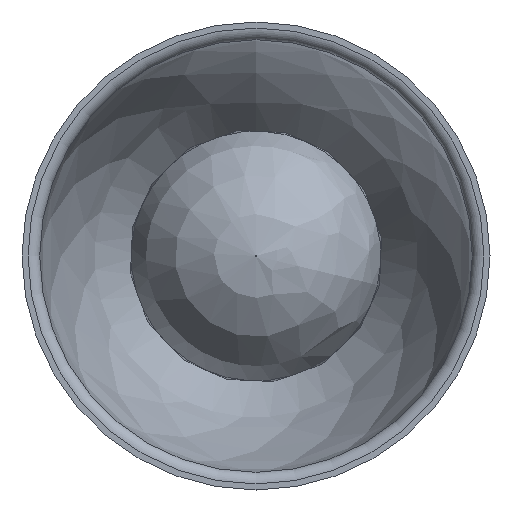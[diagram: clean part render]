
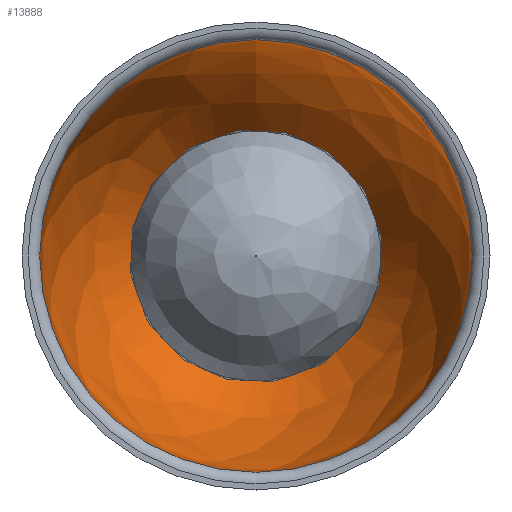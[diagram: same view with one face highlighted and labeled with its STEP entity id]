
A CAD part, front view. The second image highlights one B-rep face of the part: STEP entity #13888.
In plain terms, the highlighted free-form (B-spline) face has degree [2, 2] with [3, 9] control points.
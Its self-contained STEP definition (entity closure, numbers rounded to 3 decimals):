
#2724=(
BOUNDED_SURFACE()
B_SPLINE_SURFACE(2,2,((#23053,#23054,#23055,#23056,#23057,#23058,#23059,
#23060,#23061),(#23062,#23063,#23064,#23065,#23066,#23067,#23068,#23069,
#23070),(#23071,#23072,#23073,#23074,#23075,#23076,#23077,#23078,#23079)),
 .UNSPECIFIED.,.F.,.T.,.F.)
B_SPLINE_SURFACE_WITH_KNOTS((3,3),(3,2,2,2,3),(-0.663,0.054),
(-3.142,-1.571,0.,1.571,3.142),
 .UNSPECIFIED.)
GEOMETRIC_REPRESENTATION_ITEM()
RATIONAL_B_SPLINE_SURFACE(((1.,0.707,1.,0.707,1.,
0.707,1.,0.707,1.),(0.936,0.662,
0.936,0.662,0.936,0.662,
0.936,0.662,0.936),(1.,0.707,
1.,0.707,1.,0.707,1.,0.707,1.)))
REPRESENTATION_ITEM('')
SURFACE()
);
#3100=CIRCLE('',#14916,38.);
#3101=CIRCLE('',#14917,38.);
#3102=CIRCLE('',#14918,159.98);
#3103=CIRCLE('',#14919,71.631);
#3104=CIRCLE('',#14920,71.631);
#4168=FACE_OUTER_BOUND('',#4940,.T.);
#4940=EDGE_LOOP('',(#10223,#10224,#10225,#10226,#10227,#10228));
#7153=VERTEX_POINT('',#23048);
#7154=VERTEX_POINT('',#23050);
#7155=VERTEX_POINT('',#23080);
#7156=VERTEX_POINT('',#23082);
#8307=EDGE_CURVE('',#7153,#7154,#3100,.T.);
#8308=EDGE_CURVE('',#7154,#7153,#3101,.T.);
#8309=EDGE_CURVE('',#7154,#7155,#3102,.T.);
#8310=EDGE_CURVE('',#7155,#7156,#3103,.T.);
#8311=EDGE_CURVE('',#7156,#7155,#3104,.T.);
#10223=ORIENTED_EDGE('',*,*,#8307,.F.);
#10224=ORIENTED_EDGE('',*,*,#8308,.F.);
#10225=ORIENTED_EDGE('',*,*,#8309,.T.);
#10226=ORIENTED_EDGE('',*,*,#8310,.T.);
#10227=ORIENTED_EDGE('',*,*,#8311,.T.);
#10228=ORIENTED_EDGE('',*,*,#8309,.F.);
#13888=ADVANCED_FACE('',(#4168),#2724,.T.);
#14916=AXIS2_PLACEMENT_3D('',#23051,#17163,#17164);
#14917=AXIS2_PLACEMENT_3D('',#23052,#17165,#17166);
#14918=AXIS2_PLACEMENT_3D('',#23081,#17167,#17168);
#14919=AXIS2_PLACEMENT_3D('',#23083,#17169,#17170);
#14920=AXIS2_PLACEMENT_3D('',#23084,#17171,#17172);
#17163=DIRECTION('center_axis',(0.,-1.,0.));
#17164=DIRECTION('ref_axis',(1.,0.,0.));
#17165=DIRECTION('center_axis',(0.,-1.,0.));
#17166=DIRECTION('ref_axis',(1.,0.,0.));
#17167=DIRECTION('center_axis',(1.,0.,0.));
#17168=DIRECTION('ref_axis',(0.,0.,1.));
#17169=DIRECTION('center_axis',(0.,-1.,0.));
#17170=DIRECTION('ref_axis',(1.,0.,0.));
#17171=DIRECTION('center_axis',(0.,-1.,0.));
#17172=DIRECTION('ref_axis',(1.,0.,0.));
#23048=CARTESIAN_POINT('',(-38.,129.314,0.));
#23050=CARTESIAN_POINT('',(0.,129.314,38.));
#23051=CARTESIAN_POINT('Origin',(0.,129.314,0.));
#23052=CARTESIAN_POINT('Origin',(0.,129.314,0.));
#23053=CARTESIAN_POINT('Ctrl Pts',(0.,129.314,38.));
#23054=CARTESIAN_POINT('Ctrl Pts',(-38.,129.314,38.));
#23055=CARTESIAN_POINT('Ctrl Pts',(-38.,129.314,0.));
#23056=CARTESIAN_POINT('Ctrl Pts',(-38.,129.314,-38.));
#23057=CARTESIAN_POINT('Ctrl Pts',(0.,129.314,-38.));
#23058=CARTESIAN_POINT('Ctrl Pts',(38.,129.314,-38.));
#23059=CARTESIAN_POINT('Ctrl Pts',(38.,129.314,0.));
#23060=CARTESIAN_POINT('Ctrl Pts',(38.,129.314,38.));
#23061=CARTESIAN_POINT('Ctrl Pts',(0.,129.314,38.));
#23062=CARTESIAN_POINT('Ctrl Pts',(0.,82.065,74.878));
#23063=CARTESIAN_POINT('Ctrl Pts',(-74.878,82.065,74.878));
#23064=CARTESIAN_POINT('Ctrl Pts',(-74.878,82.065,0.));
#23065=CARTESIAN_POINT('Ctrl Pts',(-74.878,82.065,-74.878));
#23066=CARTESIAN_POINT('Ctrl Pts',(0.,82.065,-74.878));
#23067=CARTESIAN_POINT('Ctrl Pts',(74.878,82.065,-74.878));
#23068=CARTESIAN_POINT('Ctrl Pts',(74.878,82.065,0.));
#23069=CARTESIAN_POINT('Ctrl Pts',(74.878,82.065,74.878));
#23070=CARTESIAN_POINT('Ctrl Pts',(0.,82.065,74.878));
#23071=CARTESIAN_POINT('Ctrl Pts',(0.,22.217,71.631));
#23072=CARTESIAN_POINT('Ctrl Pts',(-71.631,22.217,71.631));
#23073=CARTESIAN_POINT('Ctrl Pts',(-71.631,22.217,0.));
#23074=CARTESIAN_POINT('Ctrl Pts',(-71.631,22.217,-71.631));
#23075=CARTESIAN_POINT('Ctrl Pts',(0.,22.217,-71.631));
#23076=CARTESIAN_POINT('Ctrl Pts',(71.631,22.217,-71.631));
#23077=CARTESIAN_POINT('Ctrl Pts',(71.631,22.217,0.));
#23078=CARTESIAN_POINT('Ctrl Pts',(71.631,22.217,71.631));
#23079=CARTESIAN_POINT('Ctrl Pts',(0.,22.217,71.631));
#23080=CARTESIAN_POINT('',(0.,22.217,71.631));
#23081=CARTESIAN_POINT('Origin',(0.,30.882,
-88.114));
#23082=CARTESIAN_POINT('',(71.631,22.217,0.));
#23083=CARTESIAN_POINT('Origin',(0.,22.217,0.));
#23084=CARTESIAN_POINT('Origin',(0.,22.217,0.));
